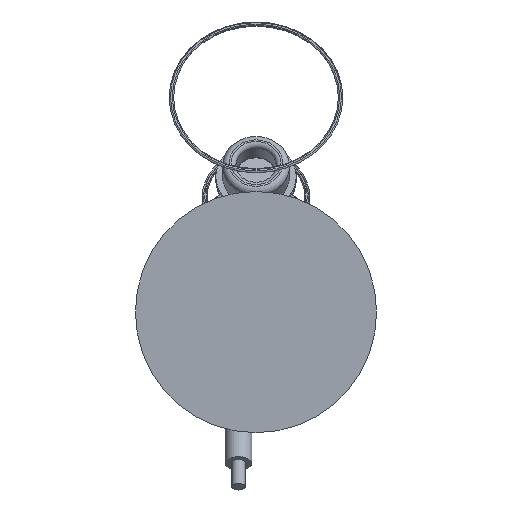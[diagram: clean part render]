
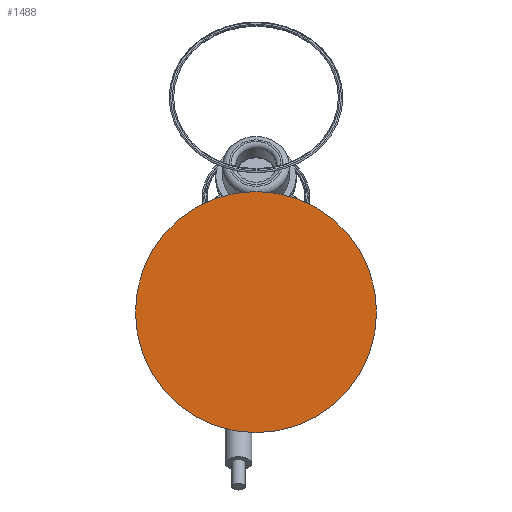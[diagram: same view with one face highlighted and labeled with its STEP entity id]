
A CAD part, front view. The second image highlights one B-rep face of the part: STEP entity #1488.
In plain terms, the highlighted planar face has unit normal (0, -1, 0).
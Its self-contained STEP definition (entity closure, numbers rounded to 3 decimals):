
#96=PLANE('',#1635);
#165=FACE_OUTER_BOUND('',#279,.T.);
#279=EDGE_LOOP('',(#1050));
#606=CIRCLE('',#1633,90.);
#700=VERTEX_POINT('',#2353);
#839=EDGE_CURVE('',#700,#700,#606,.T.);
#1050=ORIENTED_EDGE('',*,*,#839,.F.);
#1488=ADVANCED_FACE('',(#165),#96,.F.);
#1633=AXIS2_PLACEMENT_3D('',#2355,#1843,#1844);
#1635=AXIS2_PLACEMENT_3D('',#2357,#1847,#1848);
#1843=DIRECTION('center_axis',(0.,1.,0.));
#1844=DIRECTION('ref_axis',(1.,0.,0.));
#1847=DIRECTION('center_axis',(0.,1.,0.));
#1848=DIRECTION('ref_axis',(1.,0.,0.));
#2353=CARTESIAN_POINT('',(-90.,0.,0.));
#2355=CARTESIAN_POINT('Origin',(0.,0.,0.));
#2357=CARTESIAN_POINT('Origin',(0.,0.,0.));
